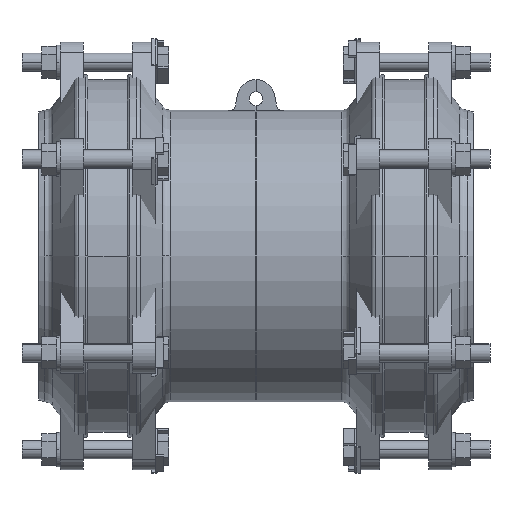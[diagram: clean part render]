
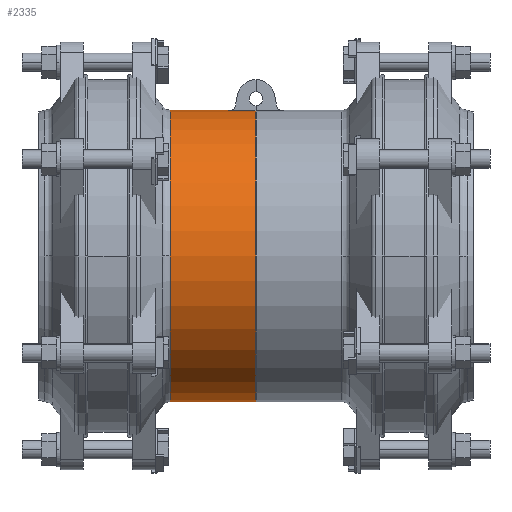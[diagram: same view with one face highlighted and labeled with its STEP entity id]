
A CAD part, front view. The second image highlights one B-rep face of the part: STEP entity #2335.
In plain terms, the highlighted cylindrical face has radius 126.5 mm (diameter 253 mm), a partial arc.
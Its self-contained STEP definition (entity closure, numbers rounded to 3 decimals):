
#2335=ADVANCED_FACE('',(#4672),#4673,.T.);
#4672=FACE_OUTER_BOUND('',#7791,.T.);
#4673=CYLINDRICAL_SURFACE('',#7792,126.5);
#7791=EDGE_LOOP('',(#11363,#11364,#11365,#11366,#11367));
#7792=AXIS2_PLACEMENT_3D('',#11368,#11369,#11370);
#11363=ORIENTED_EDGE('',*,*,#17358,.F.);
#11364=ORIENTED_EDGE('',*,*,#17359,.T.);
#11365=ORIENTED_EDGE('',*,*,#16941,.T.);
#11366=ORIENTED_EDGE('',*,*,#17360,.F.);
#11367=ORIENTED_EDGE('',*,*,#17361,.F.);
#11368=CARTESIAN_POINT('',(-9.706,0.,0.));
#11369=DIRECTION('',(1.0,0.,0.));
#11370=DIRECTION('',(0.,0.,1.0));
#16941=EDGE_CURVE('',#19967,#19975,#19977,.T.);
#17358=EDGE_CURVE('',#20653,#19923,#20654,.T.);
#17359=EDGE_CURVE('',#20653,#19967,#20655,.T.);
#17360=EDGE_CURVE('',#19927,#19975,#20656,.T.);
#17361=EDGE_CURVE('',#19923,#19927,#20657,.T.);
#19923=VERTEX_POINT('',#24020);
#19927=VERTEX_POINT('',#24025);
#19967=VERTEX_POINT('',#24074);
#19975=VERTEX_POINT('',#24082);
#19977=CIRCLE('',#24084,126.5);
#20653=VERTEX_POINT('',#25000);
#20654=LINE('',#25001,#25002);
#20655=CIRCLE('',#25003,126.5);
#20656=LINE('',#25004,#25005);
#20657=CIRCLE('',#25006,126.5);
#24020=CARTESIAN_POINT('',(27.502,0.,126.5));
#24025=CARTESIAN_POINT('',(27.502,0.,-126.5));
#24074=CARTESIAN_POINT('',(-46.915,-126.5,0.));
#24082=CARTESIAN_POINT('',(-46.915,0.,-126.5));
#24084=AXIS2_PLACEMENT_3D('',#28428,#28429,#28430);
#25000=CARTESIAN_POINT('',(-46.915,0.,126.5));
#25001=CARTESIAN_POINT('',(-9.706,0.,126.5));
#25002=VECTOR('',#28902,1.0);
#25003=AXIS2_PLACEMENT_3D('',#28903,#28904,#28905);
#25004=CARTESIAN_POINT('',(-9.706,0.,-126.5));
#25005=VECTOR('',#28906,1.0);
#25006=AXIS2_PLACEMENT_3D('',#28907,#28908,#28909);
#28428=CARTESIAN_POINT('',(-46.915,0.,0.0));
#28429=DIRECTION('',(1.0,0.,0.));
#28430=DIRECTION('',(0.,0.,1.0));
#28902=DIRECTION('',(1.0,0.,0.));
#28903=CARTESIAN_POINT('',(-46.915,0.,0.0));
#28904=DIRECTION('',(1.0,0.,0.));
#28905=DIRECTION('',(0.,0.,1.0));
#28906=DIRECTION('',(-1.0,0.,0.));
#28907=CARTESIAN_POINT('',(27.502,0.,0.));
#28908=DIRECTION('',(1.0,0.,0.));
#28909=DIRECTION('',(0.,0.,1.0));
